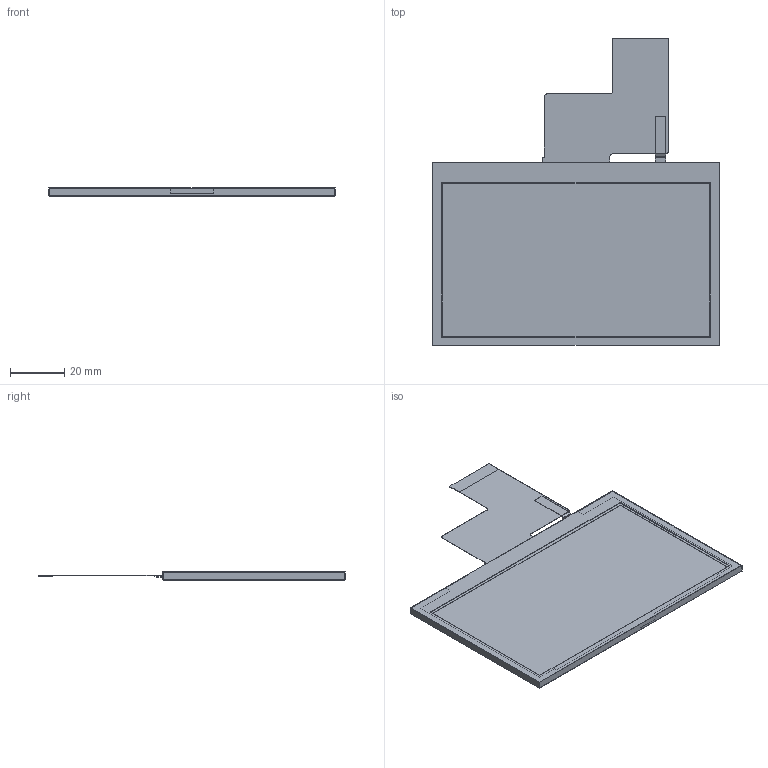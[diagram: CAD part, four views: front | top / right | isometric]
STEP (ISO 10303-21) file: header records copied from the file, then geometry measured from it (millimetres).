
FILE_DESCRIPTION (( 'STEP AP214' ), '1' );
FILE_NAME ('verified_NHD-4.3-480272EF-ASXP_Rev1A.STEP', '2021-12-01T18:27:32', ( '' ), ( '' ), 'SwSTEP 2.0', 'SolidWorks 2019', '' );
FILE_SCHEMA (( 'AUTOMOTIVE_DESIGN' ));
Length unit declared in the file: millimetre
Products named in the file (1): verified_NHD-4.3-480272EF-ASXP_Rev1A
Bounding box: 105.5 x 112.87 x 2.95 mm (x, y, z)
Volume: 14765.6 mm3; surface area: 35780 mm2
Topology: 3 solids, 3 shells, 102 faces, 278 edges, 184 vertices
Faces by surface type: plane 88, cylinder 14
Entity records: 3630 total; most frequent: CARTESIAN_POINT 565, ORIENTED_EDGE 556, DIRECTION 512, EDGE_CURVE 278, VECTOR 250, LINE 250, VERTEX_POINT 184, AXIS2_PLACEMENT_3D 131
